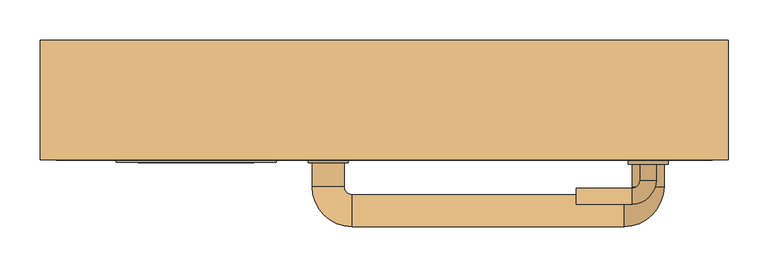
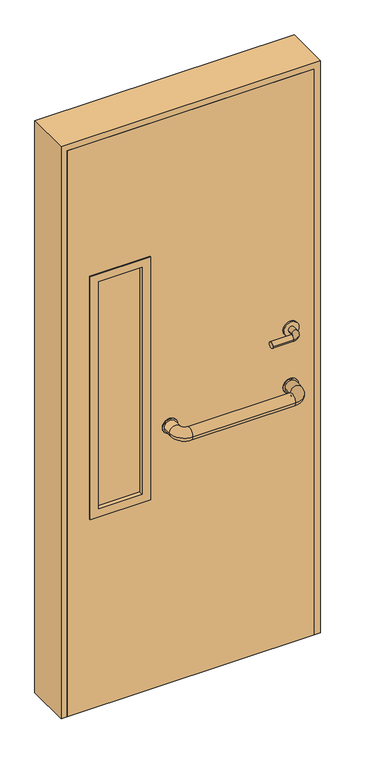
"""IFC4 building model written with IfcOpenShell, lengths in millimetres: door geometry, Porta area de servico : Porta area de servico."""

from ifc_helpers import new_model, si_unit, point, frame, frame_2d, origin, place, context, project, spatial, polyline, circle_curve, ellipse_curve, trimmed, segment, composite_curve, outline, extrude, faceted_brep, source, transform, mapped, element, save
from ifc_brep_helpers import plane_surface, cylinder_surface, revolved_surface, advanced_brep


def door_f67fff5c(model_context):
    return source(origin(), model_context, "Body", "SolidModel", [
        extrude(outline(composite_curve([segment(trimmed(circle_curve(frame_2d((900.0, -70.0)), 25.0), [point((900.0, -95.0))], [point((900.0, -45.0))], False, "CARTESIAN"), True, "CONTINUOUS"), segment(trimmed(circle_curve(frame_2d((900.0, -70.0)), 25.0), [point((900.0, -45.0))], [point((900.0, -95.0))], False, "CARTESIAN"), True, "CONTINUOUS")], self_intersect=False)), frame((0.0, -78.0, 0.0), z_axis=(0.0, 1.0, 0.0), x_axis=(0.0, 0.0, 1.0)), (0.0, 0.0, 1.0), 3.0),
        extrude(outline(composite_curve([segment(trimmed(circle_curve(frame_2d((900.0, 330.0)), 25.0), [point((900.0, 305.0))], [point((900.0, 355.0))], False, "CARTESIAN"), True, "CONTINUOUS"), segment(trimmed(circle_curve(frame_2d((900.0, 330.0)), 25.0), [point((900.0, 355.0))], [point((900.0, 305.0))], False, "CARTESIAN"), True, "CONTINUOUS")], self_intersect=False)), frame((0.0, -78.0, 0.0), z_axis=(0.0, 1.0, 0.0), x_axis=(0.0, 0.0, 1.0)), (0.0, 0.0, 1.0), 3.0),
        advanced_brep(
        [(310.0, -78.0, 900.0), (350.0, -78.0, 900.0), (310.0, -108.0, 900.0), (350.0, -108.0, 900.0), (300.0, -158.0, 900.0), (300.0, -118.0, 900.0), (-40.0, -118.0, 900.0), (-40.0, -158.0, 900.0), (-90.0, -108.0, 900.0), (-50.0, -108.0, 900.0), (-50.0, -78.0, 900.0), (-90.0, -78.0, 900.0)],
        [
            (0, 1, circle_curve(frame((330.0, -78.0, 900.0), z_axis=(0.0, 1.0, 0.0), x_axis=(1.0, 0.0, 0.0)), 20.0)),
            (1, 0, circle_curve(frame((330.0, -78.0, 900.0), z_axis=(0.0, 1.0, 0.0), x_axis=(1.0, 0.0, 0.0)), 20.0)),
            (0, 2),
            (2, 3, circle_curve(frame((330.0, -108.0, 900.0), z_axis=(0.0, 1.0, 0.0), x_axis=(1.0, 0.0, 0.0)), 20.0)),
            (3, 1),
            (3, 2, circle_curve(frame((330.0, -108.0, 900.0), z_axis=(0.0, 1.0, 0.0), x_axis=(1.0, 0.0, 0.0)), 20.0)),
            (4, 3, circle_curve(frame((300.0, -108.0, 900.0), z_axis=(0.0, 0.0, 1.0), x_axis=(1.0, 0.0, 0.0)), 50.0)),
            (2, 5, circle_curve(frame((300.0, -108.0, 900.0), z_axis=(0.0, 0.0, -1.0), x_axis=(1.0, 0.0, 0.0)), 10.0)),
            (5, 4, circle_curve(frame((300.0, -138.0, 900.0), z_axis=(1.0, 0.0, 0.0), x_axis=(0.0, -1.0, 0.0)), 20.0)),
            (4, 5, circle_curve(frame((300.0, -138.0, 900.0), z_axis=(1.0, 0.0, 0.0), x_axis=(0.0, -1.0, 0.0)), 20.0)),
            (5, 6),
            (6, 7, circle_curve(frame((-40.0, -138.0, 900.0), z_axis=(1.0, 0.0, 0.0), x_axis=(0.0, -1.0, 0.0)), 20.0)),
            (7, 4),
            (7, 6, circle_curve(frame((-40.0, -138.0, 900.0), z_axis=(1.0, 0.0, 0.0), x_axis=(0.0, -1.0, 0.0)), 20.0)),
            (8, 7, circle_curve(frame((-40.0, -108.0, 900.0), z_axis=(0.0, 0.0, 1.0), x_axis=(0.0, -1.0, 0.0)), 50.0)),
            (6, 9, circle_curve(frame((-40.0, -108.0, 900.0), z_axis=(0.0, 0.0, -1.0), x_axis=(0.0, -1.0, 0.0)), 10.0)),
            (9, 8, circle_curve(frame((-70.0, -108.0, 900.0), z_axis=(0.0, -1.0, 0.0), x_axis=(-1.0, 0.0, 0.0)), 20.0)),
            (8, 9, circle_curve(frame((-70.0, -108.0, 900.0), z_axis=(0.0, -1.0, 0.0), x_axis=(-1.0, 0.0, 0.0)), 20.0)),
            (10, 11, circle_curve(frame((-70.0, -78.0, 900.0), z_axis=(0.0, 1.0, 0.0), x_axis=(-1.0, 0.0, 0.0)), 20.0)),
            (11, 10, circle_curve(frame((-70.0, -78.0, 900.0), z_axis=(0.0, 1.0, 0.0), x_axis=(-1.0, 0.0, 0.0)), 20.0)),
            (9, 10),
            (11, 8),
        ],
        [
            plane_surface(frame((330.0, -78.0, 900.0), z_axis=(0.0, 1.0, 0.0), x_axis=(0.0, 0.0, 1.0))),
            cylinder_surface(frame((330.0, -78.0, 900.0), z_axis=(0.0, 1.0, 0.0), x_axis=(1.0, 0.0, 0.0)), 20.0),
            revolved_surface(trimmed(ellipse_curve(frame((330.0, -108.0, 900.0), z_axis=(0.0, 1.0, 0.0), x_axis=(1.0, 0.0, 0.0)), 20.0, 20.0), [point((310.0, -108.0, 900.0))], [point((350.0, -108.0, 900.0))], True, "CARTESIAN"), (300.0, -108.0, 900.0), (0.0, 0.0, -1.0)),
            revolved_surface(trimmed(ellipse_curve(frame((330.0, -108.0, 900.0), z_axis=(0.0, 1.0, 0.0), x_axis=(1.0, 0.0, 0.0)), 20.0, 20.0), [point((350.0, -108.0, 900.0))], [point((310.0, -108.0, 900.0))], True, "CARTESIAN"), (300.0, -108.0, 900.0), (0.0, 0.0, -1.0)),
            cylinder_surface(frame((300.0, -138.0, 900.0), z_axis=(1.0, 0.0, 0.0), x_axis=(0.0, -1.0, 0.0)), 20.0),
            revolved_surface(trimmed(ellipse_curve(frame((-40.0, -138.0, 900.0), z_axis=(1.0, 0.0, 0.0), x_axis=(0.0, -1.0, 0.0)), 20.0, 20.0), [point((-40.0, -118.0, 900.0))], [point((-40.0, -158.0, 900.0))], True, "CARTESIAN"), (-40.0, -108.0, 900.0), (0.0, 0.0, -1.0)),
            revolved_surface(trimmed(ellipse_curve(frame((-40.0, -138.0, 900.0), z_axis=(1.0, 0.0, 0.0), x_axis=(0.0, -1.0, 0.0)), 20.0, 20.0), [point((-40.0, -158.0, 900.0))], [point((-40.0, -118.0, 900.0))], True, "CARTESIAN"), (-40.0, -108.0, 900.0), (0.0, 0.0, -1.0)),
            plane_surface(frame((-70.0, -78.0, 900.0), z_axis=(0.0, 1.0, 0.0), x_axis=(0.0, 0.0, 1.0))),
            cylinder_surface(frame((-70.0, -108.0, 900.0), z_axis=(0.0, -1.0, 0.0), x_axis=(-1.0, 0.0, 0.0)), 20.0),
        ],
        [
            (0, [[1, 2]]),
            (1, [[-1, 3, 4, 5]]),
            (1, [[-2, -5, 6, -3]]),
            (2, [[7, -4, 8, 9]]),
            (3, [[-8, -6, -7, 10]]),
            (4, [[-9, 11, 12, 13]]),
            (4, [[-10, -13, 14, -11]]),
            (5, [[15, -12, 16, 17]]),
            (6, [[-16, -14, -15, 18]]),
            (7, [[19, 20]]),
            (8, [[-17, 21, -20, 22]]),
            (8, [[-18, -22, -19, -21]]),
        ],
    ),
        extrude(outline(composite_curve([segment(trimmed(circle_curve(frame_2d((900.0, -70.0)), 25.0), [point((900.0, -95.0))], [point((900.0, -45.0))], False, "CARTESIAN"), True, "CONTINUOUS"), segment(trimmed(circle_curve(frame_2d((900.0, -70.0)), 25.0), [point((900.0, -45.0))], [point((900.0, -95.0))], False, "CARTESIAN"), True, "CONTINUOUS")], self_intersect=False)), frame((0.0, -45.0, 0.0), z_axis=(0.0, 1.0, 0.0), x_axis=(0.0, 0.0, 1.0)), (0.0, 0.0, 1.0), 3.0),
        extrude(outline(composite_curve([segment(trimmed(circle_curve(frame_2d((900.0, 330.0)), 25.0), [point((900.0, 305.0))], [point((900.0, 355.0))], False, "CARTESIAN"), True, "CONTINUOUS"), segment(trimmed(circle_curve(frame_2d((900.0, 330.0)), 25.0), [point((900.0, 355.0))], [point((900.0, 305.0))], False, "CARTESIAN"), True, "CONTINUOUS")], self_intersect=False)), frame((0.0, -45.0, 0.0), z_axis=(0.0, 1.0, 0.0), x_axis=(0.0, 0.0, 1.0)), (0.0, 0.0, 1.0), 3.0),
        advanced_brep(
        [(310.0, -42.0, 900.0), (350.0, -42.0, 900.0), (350.0, -12.0, 900.0), (310.0, -12.0, 900.0), (300.0, 38.0, 900.0), (300.0, -2.0, 900.0), (-40.0, 38.0, 900.0), (-40.0, -2.0, 900.0), (-90.0, -12.0, 900.0), (-50.0, -12.0, 900.0), (-50.0, -42.0, 900.0), (-90.0, -42.0, 900.0)],
        [
            (0, 1, circle_curve(frame((330.0, -42.0, 900.0), z_axis=(0.0, -1.0, 0.0), x_axis=(1.0, 0.0, 0.0)), 20.0)),
            (1, 0, circle_curve(frame((330.0, -42.0, 900.0), z_axis=(0.0, -1.0, 0.0), x_axis=(1.0, 0.0, 0.0)), 20.0)),
            (1, 2),
            (2, 3, circle_curve(frame((330.0, -12.0, 900.0), z_axis=(0.0, -1.0, 0.0), x_axis=(1.0, 0.0, 0.0)), 20.0)),
            (3, 0),
            (3, 2, circle_curve(frame((330.0, -12.0, 900.0), z_axis=(0.0, -1.0, 0.0), x_axis=(1.0, 0.0, 0.0)), 20.0)),
            (4, 5, circle_curve(frame((300.0, 18.0, 900.0), z_axis=(1.0, 0.0, 0.0), x_axis=(0.0, 1.0, 0.0)), 20.0)),
            (5, 3, circle_curve(frame((300.0, -12.0, 900.0), z_axis=(0.0, 0.0, -1.0), x_axis=(1.0, 0.0, 0.0)), 10.0)),
            (2, 4, circle_curve(frame((300.0, -12.0, 900.0), z_axis=(0.0, 0.0, 1.0), x_axis=(1.0, 0.0, 0.0)), 50.0)),
            (5, 4, circle_curve(frame((300.0, 18.0, 900.0), z_axis=(1.0, 0.0, 0.0), x_axis=(0.0, 1.0, 0.0)), 20.0)),
            (4, 6),
            (6, 7, circle_curve(frame((-40.0, 18.0, 900.0), z_axis=(1.0, 0.0, 0.0), x_axis=(0.0, 1.0, 0.0)), 20.0)),
            (7, 5),
            (7, 6, circle_curve(frame((-40.0, 18.0, 900.0), z_axis=(1.0, 0.0, 0.0), x_axis=(0.0, 1.0, 0.0)), 20.0)),
            (8, 9, circle_curve(frame((-70.0, -12.0, 900.0), z_axis=(0.0, 1.0, 0.0), x_axis=(-1.0, 0.0, 0.0)), 20.0)),
            (9, 7, circle_curve(frame((-40.0, -12.0, 900.0), z_axis=(0.0, 0.0, -1.0), x_axis=(0.0, 1.0, 0.0)), 10.0)),
            (6, 8, circle_curve(frame((-40.0, -12.0, 900.0), z_axis=(0.0, 0.0, 1.0), x_axis=(0.0, 1.0, 0.0)), 50.0)),
            (9, 8, circle_curve(frame((-70.0, -12.0, 900.0), z_axis=(0.0, 1.0, 0.0), x_axis=(-1.0, 0.0, 0.0)), 20.0)),
            (10, 11, circle_curve(frame((-70.0, -42.0, 900.0), z_axis=(0.0, -1.0, 0.0), x_axis=(-1.0, 0.0, 0.0)), 20.0)),
            (11, 10, circle_curve(frame((-70.0, -42.0, 900.0), z_axis=(0.0, -1.0, 0.0), x_axis=(-1.0, 0.0, 0.0)), 20.0)),
            (8, 11),
            (10, 9),
        ],
        [
            plane_surface(frame((330.0, -42.0, 900.0), z_axis=(0.0, -1.0, 0.0), x_axis=(0.0, 0.0, 1.0))),
            cylinder_surface(frame((330.0, -42.0, 900.0), z_axis=(0.0, -1.0, 0.0), x_axis=(1.0, 0.0, 0.0)), 20.0),
            revolved_surface(trimmed(ellipse_curve(frame((330.0, -12.0, 900.0), z_axis=(0.0, 1.0, 0.0), x_axis=(1.0, 0.0, 0.0)), 20.0, 20.0), [point((310.0, -12.0, 900.0))], [point((350.0, -12.0, 900.0))], True, "CARTESIAN"), (300.0, -12.0, 900.0), (0.0, 0.0, -1.0)),
            revolved_surface(trimmed(ellipse_curve(frame((330.0, -12.0, 900.0), z_axis=(0.0, 1.0, 0.0), x_axis=(1.0, 0.0, 0.0)), 20.0, 20.0), [point((350.0, -12.0, 900.0))], [point((310.0, -12.0, 900.0))], True, "CARTESIAN"), (300.0, -12.0, 900.0), (0.0, 0.0, -1.0)),
            cylinder_surface(frame((300.0, 18.0, 900.0), z_axis=(1.0, 0.0, 0.0), x_axis=(0.0, 1.0, 0.0)), 20.0),
            revolved_surface(trimmed(ellipse_curve(frame((-40.0, 18.0, 900.0), z_axis=(-1.0, 0.0, 0.0), x_axis=(0.0, 1.0, 0.0)), 20.0, 20.0), [point((-40.0, -2.0, 900.0))], [point((-40.0, 38.0, 900.0))], True, "CARTESIAN"), (-40.0, -12.0, 900.0), (0.0, 0.0, -1.0)),
            revolved_surface(trimmed(ellipse_curve(frame((-40.0, 18.0, 900.0), z_axis=(-1.0, 0.0, 0.0), x_axis=(0.0, 1.0, 0.0)), 20.0, 20.0), [point((-40.0, 38.0, 900.0))], [point((-40.0, -2.0, 900.0))], True, "CARTESIAN"), (-40.0, -12.0, 900.0), (0.0, 0.0, -1.0)),
            plane_surface(frame((-70.0, -42.0, 900.0), z_axis=(0.0, -1.0, 0.0), x_axis=(0.0, 0.0, 1.0))),
            cylinder_surface(frame((-70.0, -12.0, 900.0), z_axis=(0.0, 1.0, 0.0), x_axis=(-1.0, 0.0, 0.0)), 20.0),
        ],
        [
            (0, [[1, 2]]),
            (1, [[3, 4, 5, -2]]),
            (1, [[-5, 6, -3, -1]]),
            (2, [[7, 8, -4, 9]]),
            (3, [[10, -9, -6, -8]]),
            (4, [[11, 12, 13, -7]]),
            (4, [[-13, 14, -11, -10]]),
            (5, [[15, 16, -12, 17]]),
            (6, [[18, -17, -14, -16]]),
            (7, [[19, 20]]),
            (8, [[21, -19, 22, -15]]),
            (8, [[-22, -20, -21, -18]]),
        ],
    ),
        extrude(outline(composite_curve([segment(trimmed(circle_curve(frame_2d((1100.0, 330.0)), 25.0), [point((1100.0, 305.0))], [point((1100.0, 355.0))], False, "CARTESIAN"), True, "CONTINUOUS"), segment(trimmed(circle_curve(frame_2d((1100.0, 330.0)), 25.0), [point((1100.0, 355.0))], [point((1100.0, 305.0))], False, "CARTESIAN"), True, "CONTINUOUS")], self_intersect=False)), frame((0.0, -80.0, 0.0), z_axis=(0.0, 1.0, 0.0), x_axis=(0.0, 0.0, 1.0)), (0.0, 0.0, 1.0), 5.0),
        advanced_brep(
        [(320.0, -80.0, 1100.0), (340.0, -80.0, 1100.0), (320.0, -100.0, 1100.0), (340.0, -100.0, 1100.0), (310.0, -130.0, 1100.0), (310.0, -110.0, 1100.0), (240.0, -110.0, 1100.0), (240.0, -130.0, 1100.0)],
        [
            (0, 1, circle_curve(frame((330.0, -80.0, 1100.0), z_axis=(0.0, 1.0, 0.0), x_axis=(1.0, 0.0, 0.0)), 10.0)),
            (1, 0, circle_curve(frame((330.0, -80.0, 1100.0), z_axis=(0.0, 1.0, 0.0), x_axis=(1.0, 0.0, 0.0)), 10.0)),
            (0, 2),
            (2, 3, circle_curve(frame((330.0, -100.0, 1100.0), z_axis=(0.0, 1.0, 0.0), x_axis=(1.0, 0.0, 0.0)), 10.0)),
            (3, 1),
            (3, 2, circle_curve(frame((330.0, -100.0, 1100.0), z_axis=(0.0, 1.0, 0.0), x_axis=(1.0, 0.0, 0.0)), 10.0)),
            (4, 3, circle_curve(frame((310.0, -100.0, 1100.0), z_axis=(0.0, 0.0, 1.0), x_axis=(1.0, 0.0, 0.0)), 30.0)),
            (2, 5, circle_curve(frame((310.0, -100.0, 1100.0), z_axis=(0.0, 0.0, -1.0), x_axis=(1.0, 0.0, 0.0)), 10.0)),
            (5, 4, circle_curve(frame((310.0, -120.0, 1100.0), z_axis=(1.0, 0.0, 0.0), x_axis=(0.0, -1.0, 0.0)), 10.0)),
            (4, 5, circle_curve(frame((310.0, -120.0, 1100.0), z_axis=(1.0, 0.0, 0.0), x_axis=(0.0, -1.0, 0.0)), 10.0)),
            (6, 7, circle_curve(frame((240.0, -120.0, 1100.0), z_axis=(-1.0, 0.0, 0.0), x_axis=(0.0, -1.0, 0.0)), 10.0)),
            (7, 6, circle_curve(frame((240.0, -120.0, 1100.0), z_axis=(-1.0, 0.0, 0.0), x_axis=(0.0, -1.0, 0.0)), 10.0)),
            (5, 6),
            (7, 4),
        ],
        [
            plane_surface(frame((330.0, -80.0, 1100.0), z_axis=(0.0, 1.0, 0.0), x_axis=(0.0, 0.0, 1.0))),
            cylinder_surface(frame((330.0, -80.0, 1100.0), z_axis=(0.0, 1.0, 0.0), x_axis=(1.0, 0.0, 0.0)), 10.0),
            revolved_surface(trimmed(ellipse_curve(frame((330.0, -100.0, 1100.0), z_axis=(0.0, 1.0, 0.0), x_axis=(1.0, 0.0, 0.0)), 10.0, 10.0), [point((320.0, -100.0, 1100.0))], [point((340.0, -100.0, 1100.0))], True, "CARTESIAN"), (310.0, -100.0, 1100.0), (0.0, 0.0, -1.0)),
            revolved_surface(trimmed(ellipse_curve(frame((330.0, -100.0, 1100.0), z_axis=(0.0, 1.0, 0.0), x_axis=(1.0, 0.0, 0.0)), 10.0, 10.0), [point((340.0, -100.0, 1100.0))], [point((320.0, -100.0, 1100.0))], True, "CARTESIAN"), (310.0, -100.0, 1100.0), (0.0, 0.0, -1.0)),
            plane_surface(frame((240.0, -120.0, 1100.0), z_axis=(-1.0, 0.0, 0.0), x_axis=(0.0, 0.0, 1.0))),
            cylinder_surface(frame((310.0, -120.0, 1100.0), z_axis=(1.0, 0.0, 0.0), x_axis=(0.0, -1.0, 0.0)), 10.0),
        ],
        [
            (0, [[1, 2]]),
            (1, [[-1, 3, 4, 5]]),
            (1, [[-2, -5, 6, -3]]),
            (2, [[7, -4, 8, 9]]),
            (3, [[-8, -6, -7, 10]]),
            (4, [[11, 12]]),
            (5, [[-9, 13, -12, 14]]),
            (5, [[-10, -14, -11, -13]]),
        ],
    ),
        extrude(outline(composite_curve([segment(trimmed(circle_curve(frame_2d((1100.0, 330.0)), 25.0), [point((1100.0, 305.0))], [point((1100.0, 355.0))], False, "CARTESIAN"), True, "CONTINUOUS"), segment(trimmed(circle_curve(frame_2d((1100.0, 330.0)), 25.0), [point((1100.0, 355.0))], [point((1100.0, 305.0))], False, "CARTESIAN"), True, "CONTINUOUS")], self_intersect=False)), frame((0.0, -45.0, 0.0), z_axis=(0.0, 1.0, 0.0), x_axis=(0.0, 0.0, 1.0)), (0.0, 0.0, 1.0), 5.0),
        advanced_brep(
        [(320.0, -40.0, 1100.0), (340.0, -40.0, 1100.0), (340.0, -20.0, 1100.0), (320.0, -20.0, 1100.0), (310.0, 10.0, 1100.0), (310.0, -10.0, 1100.0), (240.0, -10.0, 1100.0), (240.0, 10.0, 1100.0)],
        [
            (0, 1, circle_curve(frame((330.0, -40.0, 1100.0), z_axis=(0.0, -1.0, 0.0), x_axis=(1.0, 0.0, 0.0)), 10.0)),
            (1, 0, circle_curve(frame((330.0, -40.0, 1100.0), z_axis=(0.0, -1.0, 0.0), x_axis=(1.0, 0.0, 0.0)), 10.0)),
            (1, 2),
            (2, 3, circle_curve(frame((330.0, -20.0, 1100.0), z_axis=(0.0, -1.0, 0.0), x_axis=(1.0, 0.0, 0.0)), 10.0)),
            (3, 0),
            (3, 2, circle_curve(frame((330.0, -20.0, 1100.0), z_axis=(0.0, -1.0, 0.0), x_axis=(1.0, 0.0, 0.0)), 10.0)),
            (4, 5, circle_curve(frame((310.0, 0.0, 1100.0), z_axis=(1.0, 0.0, 0.0), x_axis=(0.0, 1.0, 0.0)), 10.0)),
            (5, 3, circle_curve(frame((310.0, -20.0, 1100.0), z_axis=(0.0, 0.0, -1.0), x_axis=(1.0, 0.0, 0.0)), 10.0)),
            (2, 4, circle_curve(frame((310.0, -20.0, 1100.0), z_axis=(0.0, 0.0, 1.0), x_axis=(1.0, 0.0, 0.0)), 30.0)),
            (5, 4, circle_curve(frame((310.0, 0.0, 1100.0), z_axis=(1.0, 0.0, 0.0), x_axis=(0.0, 1.0, 0.0)), 10.0)),
            (6, 7, circle_curve(frame((240.0, 0.0, 1100.0), z_axis=(-1.0, 0.0, 0.0), x_axis=(0.0, 1.0, 0.0)), 10.0)),
            (7, 6, circle_curve(frame((240.0, 0.0, 1100.0), z_axis=(-1.0, 0.0, 0.0), x_axis=(0.0, 1.0, 0.0)), 10.0)),
            (4, 7),
            (6, 5),
        ],
        [
            plane_surface(frame((330.0, -40.0, 1100.0), z_axis=(0.0, -1.0, 0.0), x_axis=(0.0, 0.0, 1.0))),
            cylinder_surface(frame((330.0, -40.0, 1100.0), z_axis=(0.0, -1.0, 0.0), x_axis=(1.0, 0.0, 0.0)), 10.0),
            revolved_surface(trimmed(ellipse_curve(frame((330.0, -20.0, 1100.0), z_axis=(0.0, 1.0, 0.0), x_axis=(1.0, 0.0, 0.0)), 10.0, 10.0), [point((320.0, -20.0, 1100.0))], [point((340.0, -20.0, 1100.0))], True, "CARTESIAN"), (310.0, -20.0, 1100.0), (0.0, 0.0, -1.0)),
            revolved_surface(trimmed(ellipse_curve(frame((330.0, -20.0, 1100.0), z_axis=(0.0, 1.0, 0.0), x_axis=(1.0, 0.0, 0.0)), 10.0, 10.0), [point((340.0, -20.0, 1100.0))], [point((320.0, -20.0, 1100.0))], True, "CARTESIAN"), (310.0, -20.0, 1100.0), (0.0, 0.0, -1.0)),
            plane_surface(frame((240.0, 0.0, 1100.0), z_axis=(-1.0, 0.0, 0.0), x_axis=(0.0, 0.0, 1.0))),
            cylinder_surface(frame((310.0, 0.0, 1100.0), z_axis=(1.0, 0.0, 0.0), x_axis=(0.0, 1.0, 0.0)), 10.0),
        ],
        [
            (0, [[1, 2]]),
            (1, [[3, 4, 5, -2]]),
            (1, [[-5, 6, -3, -1]]),
            (2, [[7, 8, -4, 9]]),
            (3, [[10, -9, -6, -8]]),
            (4, [[11, 12]]),
            (5, [[13, -11, 14, -7]]),
            (5, [[-14, -12, -13, -10]]),
        ],
    ),
        faceted_brep([(-430.0, 75.0, 0.0), (-400.0, 75.0, 0.0), (-400.0, -45.0, 0.0), (-410.0, -45.0, 0.0), (-410.0, -75.0, 0.0), (-430.0, -75.0, 0.0), (-430.0, 75.0, 2000.0), (430.0, 75.0, 2000.0), (430.0, 75.0, 0.0), (400.0, 75.0, 0.0), (400.0, 75.0, 1970.0), (-400.0, 75.0, 1970.0), (-400.0, -45.0, 1970.0), (400.0, -45.0, 1970.0), (400.0, -45.0, 0.0), (410.0, -45.0, 0.0), (410.0, -45.0, 1980.0), (-410.0, -45.0, 1980.0), (-410.0, -75.0, 1980.0), (410.0, -75.0, 1980.0), (410.0, -75.0, 0.0), (430.0, -75.0, 0.0), (430.0, -75.0, 2000.0), (-430.0, -75.0, 2000.0)], [[[0, 1, 2, 3, 4, 5]], [[1, 0, 6, 7, 8, 9, 10, 11]], [[2, 1, 11, 12]], [[3, 2, 12, 13, 14, 15, 16, 17]], [[4, 3, 17, 18]], [[5, 4, 18, 19, 20, 21, 22, 23]], [[0, 5, 23, 6]], [[13, 10, 9, 14]], [[8, 21, 20, 15, 14, 9]], [[19, 16, 15, 20]], [[7, 22, 21, 8]], [[12, 11, 10, 13]], [[18, 17, 16, 19]], [[6, 23, 22, 7]]]),
        extrude(outline(polyline([(-163.0, -63.4643825), (-307.0, -63.4643825), (-307.0, -56.5356175), (-163.0, -56.5356175), (-163.0, -63.4643825)])), frame((0.0, 0.0, 693.0), z_axis=(0.0, 0.0, 1.0), x_axis=(1.0, 0.0, 0.0)), (0.0, 0.0, 1.0), 924.0),
        faceted_brep([(-335.0, -42.0, 1515.0), (-335.0, -45.0, 1515.0), (-135.0, -45.0, 1515.0), (-135.0, -42.0, 1515.0), (-307.0, -78.0, 1487.0), (-307.0, -42.0, 1487.0), (-163.0, -42.0, 1487.0), (-163.0, -78.0, 1487.0), (-335.0, -75.0, 1515.0), (-335.0, -78.0, 1515.0), (-135.0, -78.0, 1515.0), (-135.0, -75.0, 1515.0), (-310.0, -45.0, 1490.0), (-310.0, -75.0, 1490.0), (-160.0, -75.0, 1490.0), (-160.0, -45.0, 1490.0), (-135.0, -45.0, 665.0), (-135.0, -42.0, 665.0), (-163.0, -42.0, 693.0), (-163.0, -78.0, 693.0), (-135.0, -78.0, 665.0), (-135.0, -75.0, 665.0), (-160.0, -75.0, 690.0), (-160.0, -45.0, 690.0), (-335.0, -45.0, 665.0), (-335.0, -42.0, 665.0), (-307.0, -42.0, 693.0), (-307.0, -78.0, 693.0), (-335.0, -78.0, 665.0), (-335.0, -75.0, 665.0), (-310.0, -75.0, 690.0), (-310.0, -45.0, 690.0)], [[[0, 1, 2, 3]], [[4, 5, 6, 7]], [[8, 9, 10, 11]], [[12, 13, 14, 15]], [[3, 2, 16, 17]], [[7, 6, 18, 19]], [[11, 10, 20, 21]], [[15, 14, 22, 23]], [[17, 16, 24, 25]], [[19, 18, 26, 27]], [[21, 20, 28, 29]], [[23, 22, 30, 31]], [[1, 24, 16, 2], [15, 23, 31, 12]], [[25, 24, 1, 0]], [[3, 17, 25, 0], [5, 26, 18, 6]], [[27, 26, 5, 4]], [[9, 28, 20, 10], [7, 19, 27, 4]], [[29, 28, 9, 8]], [[11, 21, 29, 8], [13, 30, 22, 14]], [[31, 30, 13, 12]]]),
        extrude(outline(polyline([(0.0, 410.0), (1980.0, 410.0), (1980.0, -410.0), (0.0, -410.0), (0.0, 410.0)]), holes=[polyline([(690.0, -160.0), (690.0, -310.0), (1490.0, -310.0), (1490.0, -160.0), (690.0, -160.0)])]), frame((0.0, -75.0, 0.0), z_axis=(0.0, 1.0, 0.0), x_axis=(0.0, 0.0, 1.0)), (0.0, 0.0, 1.0), 30.0),
        extrude(outline(polyline([(150.0, -42.0), (300.0, -42.0), (300.0, -45.0), (150.0, -45.0), (150.0, -42.0)])), frame((0.0, 0.0, 1420.0), z_axis=(0.0, 0.0, 1.0), x_axis=(1.0, 0.0, 0.0)), (0.0, 0.0, 1.0), 550.0),
    ])


if __name__ == "__main__":
    model = new_model("IFC4")
    model_context = context("Model", 3, world=origin())
    ifc_project = project(units=[si_unit("LENGTHUNIT", "METRE", prefix="MILLI")], contexts=[model_context])
    site = spatial("IfcSite", under=ifc_project)
    building = spatial("IfcBuilding", under=site)
    placement = place(None, origin())
    door_shape = door_f67fff5c(model_context)
    element("IfcDoor", 1, ObjectType="Porta area de servico : Porta area de servico", at=placement, inside=building, context=model_context, shape_type="MappedRepresentation", body=[
        mapped(door_shape, transform((0.0, 0.0, 0.0), x_axis=(1.0, 0.0, 0.0), y_axis=(0.0, 1.0, 0.0), z_axis=(0.0, 0.0, 1.0))),
    ])
    save(model, "model.ifc")
